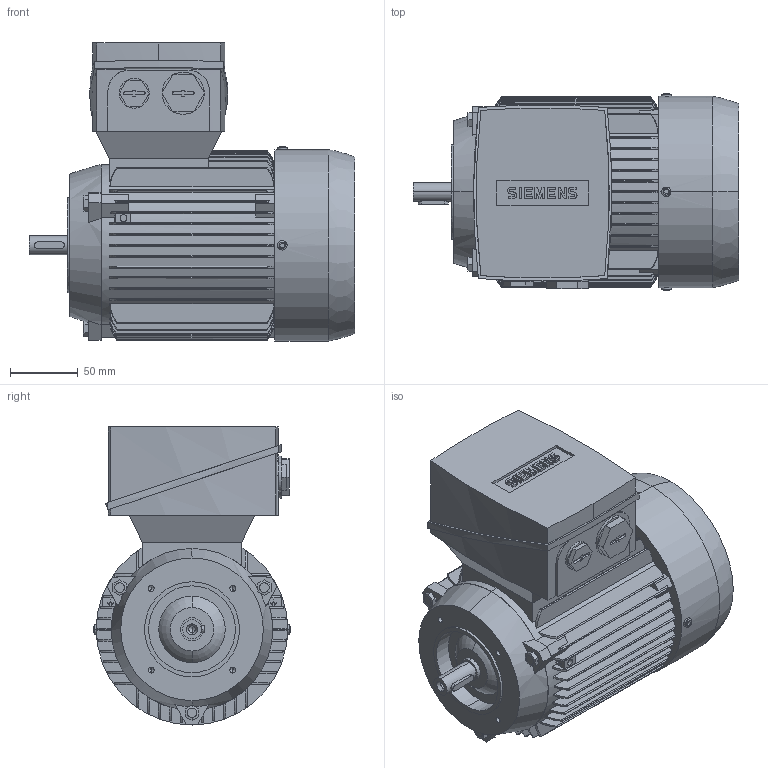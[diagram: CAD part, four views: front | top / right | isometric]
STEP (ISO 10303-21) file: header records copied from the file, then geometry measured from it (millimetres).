
FILE_DESCRIPTION(('STEP AP214'),'1');
FILE_NAME('cctmp_F786B081-5FEF-46D5-9C5A-BC201B8CC978_2021_11_4_13_32_54_41..stp','2021-11-04T12:32:54',('SIEMENS A&D'),('CADClick - www.CADClick.com'),'Spatial InterOp 3D',' ','unknown authorization');
FILE_SCHEMA(('AUTOMOTIVE_DESIGN'));
Length unit declared in the file: millimetre
Products named in the file (1): 2021_11_04__13-32-54-026
Bounding box: 240 x 145 x 219.5 mm (x, y, z)
Volume: 3585438.8 mm3; surface area: 271221.3 mm2
Topology: 1 solids, 1 shells, 718 faces, 1939 edges, 1265 vertices
Faces by surface type: plane 429, cylinder 169, torus 92, cone 28
Entity records: 32936 total; most frequent: CARTESIAN_POINT 9617, ORIENTED_EDGE 3822, DIRECTION 3389, EDGE_CURVE 1911, VERTEX_POINT 1265, AXIS2_PLACEMENT_3D 1146, LINE 1097, VECTOR 1097
